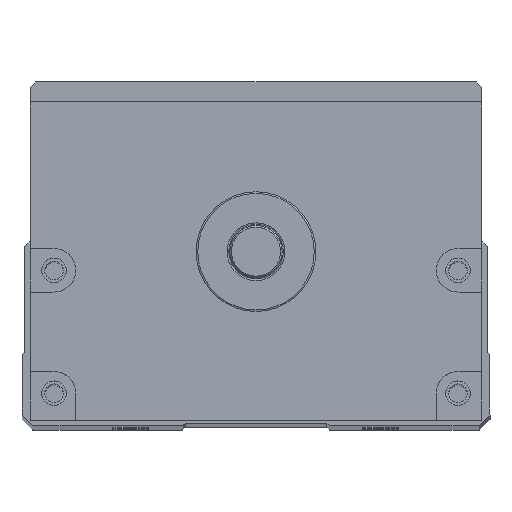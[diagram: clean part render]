
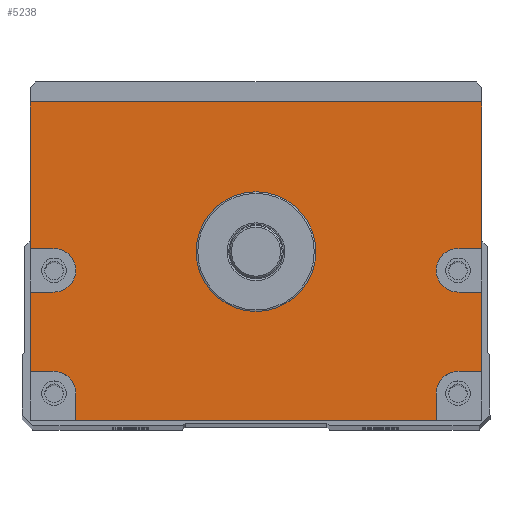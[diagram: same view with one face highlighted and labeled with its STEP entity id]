
A CAD part, top view. The second image highlights one B-rep face of the part: STEP entity #5238.
In plain terms, the highlighted planar face has unit normal (0, 0, 1).
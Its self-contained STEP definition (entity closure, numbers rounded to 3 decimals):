
#564=LINE('',#25899,#1230);
#566=LINE('',#25907,#1232);
#567=LINE('',#25910,#1233);
#568=LINE('',#25912,#1234);
#569=LINE('',#25916,#1235);
#570=LINE('',#25918,#1236);
#571=LINE('',#25919,#1237);
#572=LINE('',#25921,#1238);
#573=LINE('',#25925,#1239);
#574=LINE('',#25927,#1240);
#575=LINE('',#25929,#1241);
#576=LINE('',#25933,#1242);
#577=LINE('',#25935,#1243);
#578=LINE('',#25937,#1244);
#1230=VECTOR('',#14473,1.);
#1232=VECTOR('',#14481,1.);
#1233=VECTOR('',#14482,1.);
#1234=VECTOR('',#14483,1.);
#1235=VECTOR('',#14486,1.);
#1236=VECTOR('',#14487,1.);
#1237=VECTOR('',#14488,1.);
#1238=VECTOR('',#14489,1.);
#1239=VECTOR('',#14492,1.);
#1240=VECTOR('',#14493,1.);
#1241=VECTOR('',#14494,1.);
#1242=VECTOR('',#14497,1.);
#1243=VECTOR('',#14498,1.);
#1244=VECTOR('',#14499,1.);
#4766=FACE_BOUND('',#6620,.T.);
#4767=FACE_BOUND('',#6621,.T.);
#5238=ADVANCED_FACE('',(#4766,#4767),#5704,.T.);
#5704=PLANE('',#12982);
#6620=EDGE_LOOP('',(#8084,#8085,#8086,#8087,#8088,#8089,#8090,#8091,#8092,
#8093,#8094,#8095,#8096,#8097,#8098,#8099,#8100,#8101));
#6621=EDGE_LOOP('',(#8102));
#8084=ORIENTED_EDGE('',*,*,#11336,.F.);
#8085=ORIENTED_EDGE('',*,*,#11337,.T.);
#8086=ORIENTED_EDGE('',*,*,#11338,.F.);
#8087=ORIENTED_EDGE('',*,*,#11339,.F.);
#8088=ORIENTED_EDGE('',*,*,#11340,.F.);
#8089=ORIENTED_EDGE('',*,*,#11341,.T.);
#8090=ORIENTED_EDGE('',*,*,#11332,.T.);
#8091=ORIENTED_EDGE('',*,*,#11342,.T.);
#8092=ORIENTED_EDGE('',*,*,#11343,.F.);
#8093=ORIENTED_EDGE('',*,*,#11344,.F.);
#8094=ORIENTED_EDGE('',*,*,#11345,.F.);
#8095=ORIENTED_EDGE('',*,*,#11346,.T.);
#8096=ORIENTED_EDGE('',*,*,#11347,.F.);
#8097=ORIENTED_EDGE('',*,*,#11348,.F.);
#8098=ORIENTED_EDGE('',*,*,#11349,.F.);
#8099=ORIENTED_EDGE('',*,*,#11350,.T.);
#8100=ORIENTED_EDGE('',*,*,#11351,.F.);
#8101=ORIENTED_EDGE('',*,*,#11352,.F.);
#8102=ORIENTED_EDGE('',*,*,#11318,.T.);
#10211=VERTEX_POINT('',#25870);
#10224=VERTEX_POINT('',#25898);
#10225=VERTEX_POINT('',#25900);
#10228=VERTEX_POINT('',#25908);
#10229=VERTEX_POINT('',#25909);
#10230=VERTEX_POINT('',#25911);
#10231=VERTEX_POINT('',#25913);
#10232=VERTEX_POINT('',#25915);
#10233=VERTEX_POINT('',#25917);
#10234=VERTEX_POINT('',#25920);
#10235=VERTEX_POINT('',#25922);
#10236=VERTEX_POINT('',#25924);
#10237=VERTEX_POINT('',#25926);
#10238=VERTEX_POINT('',#25928);
#10239=VERTEX_POINT('',#25930);
#10240=VERTEX_POINT('',#25932);
#10241=VERTEX_POINT('',#25934);
#10242=VERTEX_POINT('',#25936);
#10243=VERTEX_POINT('',#25938);
#11318=EDGE_CURVE('',#10211,#10211,#12372,.T.);
#11332=EDGE_CURVE('',#10225,#10224,#564,.T.);
#11336=EDGE_CURVE('',#10228,#10229,#566,.T.);
#11337=EDGE_CURVE('',#10228,#10230,#567,.T.);
#11338=EDGE_CURVE('',#10231,#10230,#568,.T.);
#11339=EDGE_CURVE('',#10232,#10231,#12383,.T.);
#11340=EDGE_CURVE('',#10233,#10232,#569,.T.);
#11341=EDGE_CURVE('',#10233,#10225,#570,.T.);
#11342=EDGE_CURVE('',#10224,#10234,#571,.T.);
#11343=EDGE_CURVE('',#10235,#10234,#572,.T.);
#11344=EDGE_CURVE('',#10236,#10235,#12384,.T.);
#11345=EDGE_CURVE('',#10237,#10236,#573,.T.);
#11346=EDGE_CURVE('',#10237,#10238,#574,.T.);
#11347=EDGE_CURVE('',#10239,#10238,#575,.T.);
#11348=EDGE_CURVE('',#10240,#10239,#12385,.T.);
#11349=EDGE_CURVE('',#10241,#10240,#576,.T.);
#11350=EDGE_CURVE('',#10241,#10242,#577,.T.);
#11351=EDGE_CURVE('',#10243,#10242,#578,.T.);
#11352=EDGE_CURVE('',#10229,#10243,#12386,.T.);
#12372=CIRCLE('',#12964,11.);
#12383=CIRCLE('',#12978,4.);
#12384=CIRCLE('',#12979,4.);
#12385=CIRCLE('',#12980,4.);
#12386=CIRCLE('',#12981,4.);
#12964=AXIS2_PLACEMENT_3D('',#25869,#14446,#14447);
#12978=AXIS2_PLACEMENT_3D('',#25914,#14484,#14485);
#12979=AXIS2_PLACEMENT_3D('',#25923,#14490,#14491);
#12980=AXIS2_PLACEMENT_3D('',#25931,#14495,#14496);
#12981=AXIS2_PLACEMENT_3D('',#25939,#14500,#14501);
#12982=AXIS2_PLACEMENT_3D('',#25940,#14502,#14503);
#14446=DIRECTION('',(0.,0.,-1.));
#14447=DIRECTION('',(1.,0.,0.));
#14473=DIRECTION('',(-1.,0.,0.));
#14481=DIRECTION('',(-1.,0.,0.));
#14482=DIRECTION('',(0.,1.,0.));
#14483=DIRECTION('',(1.,0.,0.));
#14484=DIRECTION('',(0.,0.,1.));
#14485=DIRECTION('',(1.,0.,0.));
#14486=DIRECTION('',(-1.,0.,0.));
#14487=DIRECTION('',(0.,1.,0.));
#14488=DIRECTION('',(0.,-1.,0.));
#14489=DIRECTION('',(-1.,0.,0.));
#14490=DIRECTION('',(0.,0.,1.));
#14491=DIRECTION('',(1.,0.,0.));
#14492=DIRECTION('',(1.,0.,0.));
#14493=DIRECTION('',(0.,-1.,0.));
#14494=DIRECTION('',(-1.,0.,0.));
#14495=DIRECTION('',(0.,0.,1.));
#14496=DIRECTION('',(1.,0.,0.));
#14497=DIRECTION('',(0.,1.,0.));
#14498=DIRECTION('',(1.,0.,0.));
#14499=DIRECTION('',(0.,-1.,0.));
#14500=DIRECTION('',(0.,0.,1.));
#14501=DIRECTION('',(1.,0.,0.));
#14502=DIRECTION('',(0.,0.,1.));
#14503=DIRECTION('',(1.,0.,0.));
#25869=CARTESIAN_POINT('',(600.,0.,282.5));
#25870=CARTESIAN_POINT('',(611.,0.,282.5));
#25898=CARTESIAN_POINT('',(558.5,27.5,282.5));
#25899=CARTESIAN_POINT('',(641.5,27.5,282.5));
#25900=CARTESIAN_POINT('',(641.5,27.5,282.5));
#25907=CARTESIAN_POINT('',(641.5,-22.,282.5));
#25908=CARTESIAN_POINT('',(641.5,-22.,282.5));
#25909=CARTESIAN_POINT('',(637.115,-22.,282.5));
#25910=CARTESIAN_POINT('',(641.5,-31.,282.5));
#25911=CARTESIAN_POINT('',(641.5,-7.431,282.5));
#25912=CARTESIAN_POINT('',(641.5,-7.431,282.5));
#25913=CARTESIAN_POINT('',(637.115,-7.431,282.5));
#25914=CARTESIAN_POINT('',(637.115,-3.431,282.5));
#25915=CARTESIAN_POINT('',(637.115,0.569,282.5));
#25916=CARTESIAN_POINT('',(641.5,0.569,282.5));
#25917=CARTESIAN_POINT('',(641.5,0.569,282.5));
#25918=CARTESIAN_POINT('',(641.5,-31.,282.5));
#25919=CARTESIAN_POINT('',(558.5,27.5,282.5));
#25920=CARTESIAN_POINT('',(558.5,0.569,282.5));
#25921=CARTESIAN_POINT('',(641.5,0.569,282.5));
#25922=CARTESIAN_POINT('',(562.885,0.569,282.5));
#25923=CARTESIAN_POINT('',(562.885,-3.431,282.5));
#25924=CARTESIAN_POINT('',(562.885,-7.431,282.5));
#25925=CARTESIAN_POINT('',(641.5,-7.431,282.5));
#25926=CARTESIAN_POINT('',(558.5,-7.431,282.5));
#25927=CARTESIAN_POINT('',(558.5,27.5,282.5));
#25928=CARTESIAN_POINT('',(558.5,-22.,282.5));
#25929=CARTESIAN_POINT('',(641.5,-22.,282.5));
#25930=CARTESIAN_POINT('',(562.885,-22.,282.5));
#25931=CARTESIAN_POINT('',(562.885,-26.,282.5));
#25932=CARTESIAN_POINT('',(566.885,-26.,282.5));
#25933=CARTESIAN_POINT('',(566.885,-31.,282.5));
#25934=CARTESIAN_POINT('',(566.885,-31.,282.5));
#25935=CARTESIAN_POINT('',(558.5,-31.,282.5));
#25936=CARTESIAN_POINT('',(633.115,-31.,282.5));
#25937=CARTESIAN_POINT('',(633.115,-31.,282.5));
#25938=CARTESIAN_POINT('',(633.115,-26.,282.5));
#25939=CARTESIAN_POINT('',(637.115,-26.,282.5));
#25940=CARTESIAN_POINT('',(641.5,-31.,282.5));
